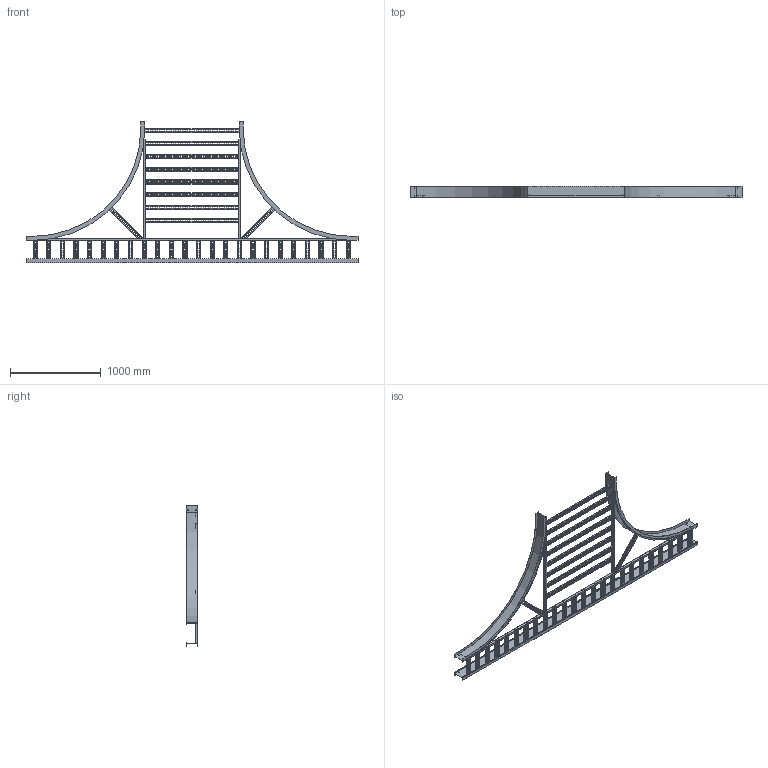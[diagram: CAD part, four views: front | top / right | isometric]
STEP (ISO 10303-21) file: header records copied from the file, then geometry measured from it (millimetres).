
FILE_DESCRIPTION((''),'2;1');
FILE_NAME('AHF50942VET48_ASM','2010-02-03T',('erouzier'),(''),'PRO/ENGINEER BY PARAMETRIC TECHNOLOGY CORPORATION, 2008510','PRO/ENGINEER BY PARAMETRIC TECHNOLOGY CORPORATION, 2008510','');
FILE_SCHEMA(('CONFIG_CONTROL_DESIGN'));
Length unit declared in the file: inch
Products named in the file (22): CDS001811-5-90-48-I; CDS013846-5-144; CDS000495_GEN_AF9; CDS002159L9-P_AF8; CDS002159L9-P_AF9; CDS002159L9-P_AF10; CDS002159L9-P_AF11; CDS002159L9-P; CDS002159L9-P_AF12; CDS002159L9-P_AF13; CDS002159L9-P_AF14; CDS002159L9-P_AF15; CDS000495_GEN_AF10; CDS000495_GEN_AF11; CDS002159L24-P_AF6; CDS002159L24-P_AF7; CDS002159L42-P_AF4; CDS002159L42-P_AF5; CDS002159L42-P; CDS002159L42-P_AF6; CDS002159L42-P_AF7; AHF50942VET48_ASM
Assembly tree (40 placements, depth 2):
  AHF50942VET48_ASM
    CDS001811-5-90-48-I  x2
    CDS013846-5-144
    CDS000495_GEN_AF9
    CDS002159L9-P_AF8
    CDS002159L9-P_AF9
    CDS002159L9-P_AF10
    CDS002159L9-P_AF11
    CDS002159L9-P  x16
    CDS002159L9-P_AF12
    CDS002159L9-P_AF13
    CDS002159L9-P_AF14
    CDS002159L9-P_AF15
    CDS000495_GEN_AF10
    CDS000495_GEN_AF11
    CDS002159L24-P_AF6
    CDS002159L24-P_AF7
    CDS002159L42-P_AF4
    CDS002159L42-P_AF5
    CDS002159L42-P  x4
    CDS002159L42-P_AF6
    CDS002159L42-P_AF7
Bounding box: 3661.66 x 129.54 x 1556.64 mm (x, y, z)
Volume: 6334890.3 mm3; surface area: 7458996.3 mm2
Topology: 40 solids, 40 shells, 5356 faces, 15828 edges, 10552 vertices
Faces by surface type: plane 2876, cylinder 2480
Entity records: 101915 total; most frequent: CARTESIAN_POINT 17852, ORIENTED_EDGE 17592, DIRECTION 17576, EDGE_CURVE 8796, VECTOR 6044, LINE 6044, VERTEX_POINT 5864, AXIS2_PLACEMENT_3D 5766
